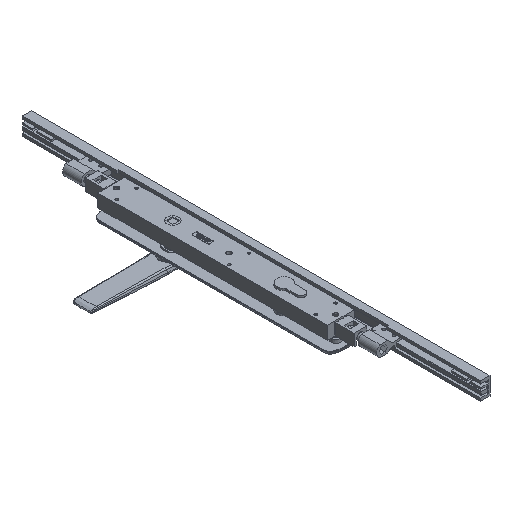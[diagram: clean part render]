
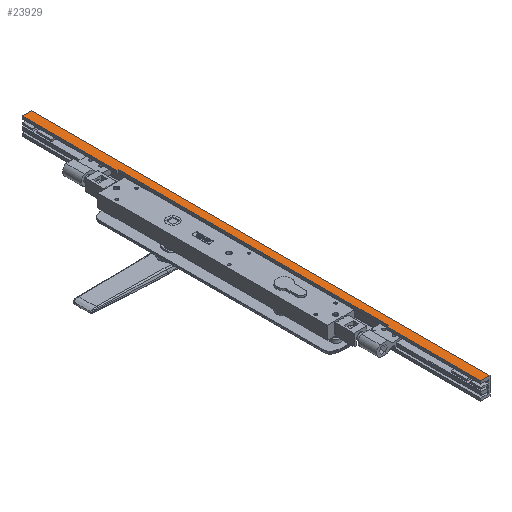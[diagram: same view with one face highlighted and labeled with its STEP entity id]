
A CAD part, isometric view. The second image highlights one B-rep face of the part: STEP entity #23929.
In plain terms, the highlighted planar face has unit normal (0, 0, 1) as drawn and (1, 0, 0) by its records, which use the part's own axes.
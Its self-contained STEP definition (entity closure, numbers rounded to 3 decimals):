
#804 = LINE ( 'NONE', #31566, #19186 ) ;
#1037 = EDGE_CURVE ( 'NONE', #32507, #25330, #22644, .T. ) ;
#1771 = VECTOR ( 'NONE', #6696, 1000. ) ;
#2675 = FACE_OUTER_BOUND ( 'NONE', #21797, .T. ) ;
#3287 = CARTESIAN_POINT ( 'NONE',  ( 19.3, 1.6, 0. ) ) ;
#3620 = VERTEX_POINT ( 'NONE', #18010 ) ;
#4289 = EDGE_CURVE ( 'NONE', #17222, #25419, #20869, .T. ) ;
#5102 = LINE ( 'NONE', #12303, #18215 ) ;
#5409 = DIRECTION ( 'NONE',  ( 0., 1., 0. ) ) ;
#5487 = VERTEX_POINT ( 'NONE', #12526 ) ;
#5519 = CARTESIAN_POINT ( 'NONE',  ( 19.3, 12.4, 544. ) ) ;
#5614 = VECTOR ( 'NONE', #23733, 1000. ) ;
#5940 = AXIS2_PLACEMENT_3D ( 'NONE', #20669, #30424, #25545 ) ;
#6430 = LINE ( 'NONE', #26968, #15681 ) ;
#6696 = DIRECTION ( 'NONE',  ( 0., 0., -1. ) ) ;
#7210 = EDGE_CURVE ( 'NONE', #5487, #17282, #15515, .T. ) ;
#8160 = DIRECTION ( 'NONE',  ( 0., -1., 0. ) ) ;
#8237 = CARTESIAN_POINT ( 'NONE',  ( 19.3, 3.6, 552.963 ) ) ;
#8719 = LINE ( 'NONE', #19470, #17735 ) ;
#8799 = CARTESIAN_POINT ( 'NONE',  ( 19.3, 12.4, 0. ) ) ;
#8849 = ORIENTED_EDGE ( 'NONE', *, *, #28922, .T. ) ;
#11533 = ORIENTED_EDGE ( 'NONE', *, *, #26927, .T. ) ;
#11681 = ORIENTED_EDGE ( 'NONE', *, *, #4289, .T. ) ;
#11790 = CARTESIAN_POINT ( 'NONE',  ( 19.3, 3.6, 112. ) ) ;
#12303 = CARTESIAN_POINT ( 'NONE',  ( 19.3, 10.4, 0. ) ) ;
#12526 = CARTESIAN_POINT ( 'NONE',  ( 19.3, 1.6, 112. ) ) ;
#12757 = LINE ( 'NONE', #20366, #24233 ) ;
#13032 = ORIENTED_EDGE ( 'NONE', *, *, #24277, .F. ) ;
#13601 = ORIENTED_EDGE ( 'NONE', *, *, #22165, .F. ) ;
#14409 = CARTESIAN_POINT ( 'NONE',  ( 19.3, 12.4, 544. ) ) ;
#14977 = VERTEX_POINT ( 'NONE', #27352 ) ;
#15515 = LINE ( 'NONE', #17886, #25047 ) ;
#15681 = VECTOR ( 'NONE', #29305, 1000. ) ;
#16075 = ORIENTED_EDGE ( 'NONE', *, *, #7210, .T. ) ;
#17055 = ORIENTED_EDGE ( 'NONE', *, *, #22906, .F. ) ;
#17222 = VERTEX_POINT ( 'NONE', #23965 ) ;
#17282 = VERTEX_POINT ( 'NONE', #3287 ) ;
#17735 = VECTOR ( 'NONE', #19291, 1000. ) ;
#17786 = PLANE ( 'NONE',  #5940 ) ;
#17886 = CARTESIAN_POINT ( 'NONE',  ( 19.3, 1.6, 552.963 ) ) ;
#18010 = CARTESIAN_POINT ( 'NONE',  ( 19.3, 1.6, 432. ) ) ;
#18215 = VECTOR ( 'NONE', #27825, 1000. ) ;
#19186 = VECTOR ( 'NONE', #8160, 1000. ) ;
#19291 = DIRECTION ( 'NONE',  ( 0., -1., 0. ) ) ;
#19470 = CARTESIAN_POINT ( 'NONE',  ( 19.3, 10.4, 432. ) ) ;
#20366 = CARTESIAN_POINT ( 'NONE',  ( 19.3, 10.4, 112. ) ) ;
#20669 = CARTESIAN_POINT ( 'NONE',  ( 19.3, 10.4, 552.963 ) ) ;
#20869 = LINE ( 'NONE', #8237, #5614 ) ;
#21797 = EDGE_LOOP ( 'NONE', ( #13601, #11681, #13032, #16075, #17055, #32664, #11533, #8849 ) ) ;
#22165 = EDGE_CURVE ( 'NONE', #17222, #3620, #8719, .T. ) ;
#22644 = LINE ( 'NONE', #14409, #1771 ) ;
#22906 = EDGE_CURVE ( 'NONE', #25330, #17282, #5102, .T. ) ;
#23733 = DIRECTION ( 'NONE',  ( 0., 0., -1. ) ) ;
#23929 = ADVANCED_FACE ( 'NONE', ( #2675 ), #17786, .T. ) ;
#23965 = CARTESIAN_POINT ( 'NONE',  ( 19.3, 3.6, 432. ) ) ;
#24233 = VECTOR ( 'NONE', #5409, 1000. ) ;
#24277 = EDGE_CURVE ( 'NONE', #5487, #25419, #12757, .T. ) ;
#25047 = VECTOR ( 'NONE', #28328, 1000. ) ;
#25330 = VERTEX_POINT ( 'NONE', #8799 ) ;
#25419 = VERTEX_POINT ( 'NONE', #11790 ) ;
#25545 = DIRECTION ( 'NONE',  ( 0., 0., -1. ) ) ;
#26927 = EDGE_CURVE ( 'NONE', #32507, #14977, #804, .T. ) ;
#26968 = CARTESIAN_POINT ( 'NONE',  ( 19.3, 1.6, 552.963 ) ) ;
#27352 = CARTESIAN_POINT ( 'NONE',  ( 19.3, 1.6, 544. ) ) ;
#27825 = DIRECTION ( 'NONE',  ( 0., -1., 0. ) ) ;
#28328 = DIRECTION ( 'NONE',  ( 0., 0., -1. ) ) ;
#28922 = EDGE_CURVE ( 'NONE', #14977, #3620, #6430, .T. ) ;
#29305 = DIRECTION ( 'NONE',  ( 0., 0., -1. ) ) ;
#30424 = DIRECTION ( 'NONE',  ( 1., 0., 0. ) ) ;
#31566 = CARTESIAN_POINT ( 'NONE',  ( 19.3, 10.4, 544. ) ) ;
#32507 = VERTEX_POINT ( 'NONE', #5519 ) ;
#32664 = ORIENTED_EDGE ( 'NONE', *, *, #1037, .F. ) ;
